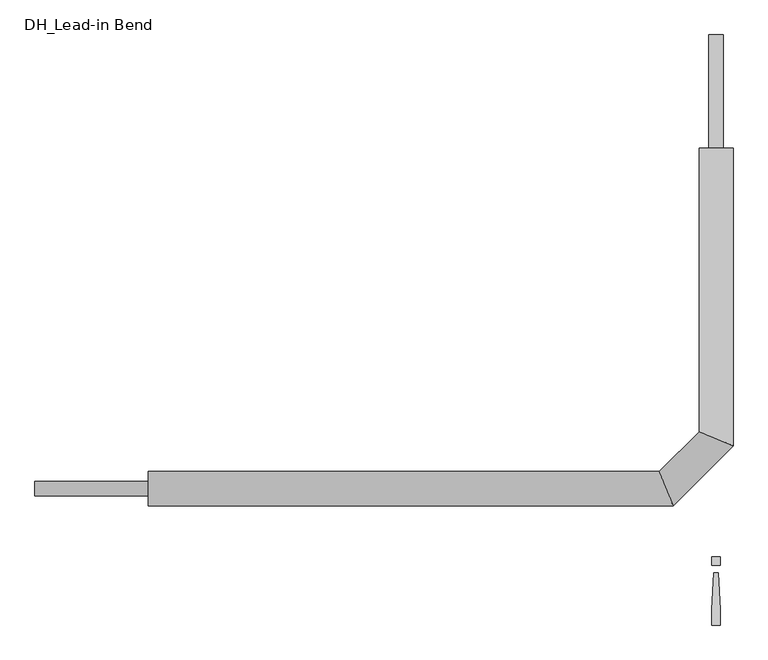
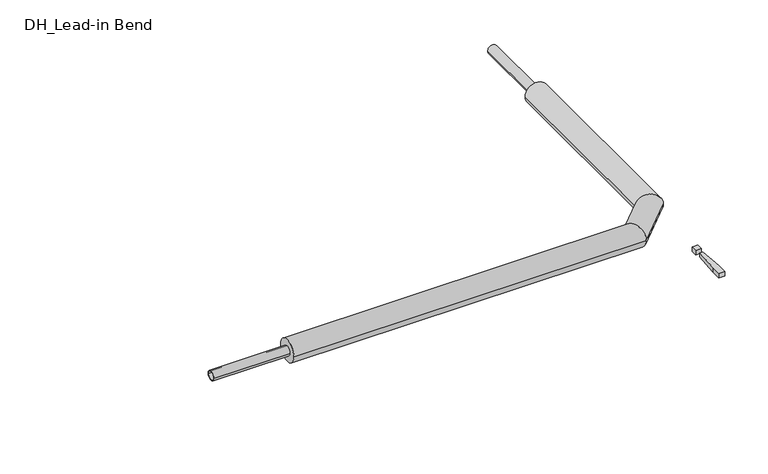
"""IFC4 building model written with IfcOpenShell, lengths in millimetres: pipe fitting geometry, DH_Lead-in Bend : INSULPEX UNO 11 Heating."""

from ifc_helpers import new_model, si_unit, point, frame, origin, origin_with_axes, origin_2d, place, context, project, spatial, polyline, circle_curve, ellipse_curve, trimmed, segment, composite_curve, outline, extrude, source, transform, mapped, element, save
from ifc_brep_helpers import plane_surface, cylinder_surface, advanced_brep


def dh_lead_in_bend_09b6b6ad(model_context):
    return source(origin(), model_context, "Body", "SolidModel", [
        advanced_brep(
        [(-1250.0, -37.5, 0.0), (-1250.0, 37.5, 0.0), (-94.4669914, -37.5, 0.0), (-125.5330086, 37.5, 0.0), (37.5, 750.0, 0.0), (-37.5, 750.0, 0.0), (-37.5, 125.5330086, 0.0), (37.5, 94.4669914, 0.0)],
        [
            (0, 1, circle_curve(frame((-1250.0, 0.0, 0.0), z_axis=(-1.0, 0.0, 0.0), x_axis=(0.0, 1.0, 0.0)), 37.5)),
            (1, 0, circle_curve(frame((-1250.0, 0.0, 0.0), z_axis=(-1.0, 0.0, 0.0), x_axis=(0.0, 1.0, 0.0)), 37.5)),
            (0, 2),
            (2, 3, ellipse_curve(frame((-110.0, 0.0, 0.0), z_axis=(-0.9238795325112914, -0.3826834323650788, 0.0), x_axis=(-0.38268343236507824, 0.9238795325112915, 0.0)), 40.5897075, 37.5)),
            (3, 1),
            (3, 2, ellipse_curve(frame((-110.0, 0.0, 0.0), z_axis=(-0.9238795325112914, -0.3826834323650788, 0.0), x_axis=(-0.38268343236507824, 0.9238795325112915, 0.0)), 40.5897075, 37.5)),
            (4, 5, circle_curve(frame((0.0, 750.0, 0.0), z_axis=(0.0, 1.0, 0.0), x_axis=(-1.0, 0.0, 0.0)), 37.5)),
            (5, 4, circle_curve(frame((0.0, 750.0, 0.0), z_axis=(0.0, 1.0, 0.0), x_axis=(-1.0, 0.0, 0.0)), 37.5)),
            (6, 7, ellipse_curve(frame((0.0, 110.0, 0.0), z_axis=(0.38268343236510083, 0.9238795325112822, 0.0), x_axis=(0.9238795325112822, -0.3826834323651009, 0.0)), 40.5897075, 37.5)),
            (7, 4),
            (5, 6),
            (7, 6, ellipse_curve(frame((0.0, 110.0, 0.0), z_axis=(0.38268343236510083, 0.9238795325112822, 0.0), x_axis=(0.9238795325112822, -0.3826834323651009, 0.0)), 40.5897075, 37.5)),
            (2, 7),
            (6, 3),
        ],
        [
            plane_surface(frame((-1250.0, 0.0, 0.0), z_axis=(-1.0, 0.0, 0.0), x_axis=(0.0, 0.0, 1.0))),
            cylinder_surface(frame((-1250.0, 0.0, 0.0), z_axis=(-1.0, 0.0, 0.0), x_axis=(0.0, 1.0, 0.0)), 37.5),
            plane_surface(frame((0.0, 750.0, 0.0), z_axis=(0.0, 1.0, 0.0), x_axis=(0.0, 0.0, 1.0))),
            cylinder_surface(frame((0.0, 110.0, 0.0), z_axis=(0.0, -1.0, 0.0), x_axis=(-1.0, 0.0, 0.0)), 37.5),
            cylinder_surface(frame((-110.0, 0.0, 0.0), z_axis=(-0.7071067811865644, -0.7071067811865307, 0.0), x_axis=(-0.7071067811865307, 0.7071067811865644, 0.0)), 37.5),
        ],
        [
            (0, [[1, 2]]),
            (1, [[-1, 3, 4, 5]]),
            (1, [[-2, -5, 6, -3]]),
            (2, [[7, 8]]),
            (3, [[9, 10, -8, 11]]),
            (3, [[12, -11, -7, -10]]),
            (4, [[-4, 13, -9, 14]]),
            (4, [[-6, -14, -12, -13]]),
        ],
    ),
        extrude(outline(polyline([(4.7088895, -185.3166715), (9.4177791, -266.6553807), (9.4177791, -300.6844652), (-9.4177791, -300.6844652), (-9.4177791, -266.6553807), (-4.7088895, -185.3166715), (4.7088895, -185.3166715)])), origin_with_axes(), (0.0, 0.0, 1.0), 15.0),
        extrude(outline(polyline([(9.4177791, -150.0), (9.4177791, -168.8355582), (-9.4177791, -168.8355582), (-9.4177791, -150.0), (9.4177791, -150.0)])), origin_with_axes(), (0.0, 0.0, 1.0), 15.0),
        extrude(outline(composite_curve([segment(trimmed(circle_curve(origin_2d(), 16.0), [point((-16.0, 0.0))], [point((16.0, 0.0))], False, "CARTESIAN"), True, "CONTINUOUS"), segment(trimmed(circle_curve(origin_2d(), 16.0), [point((16.0, 0.0))], [point((-16.0, 0.0))], False, "CARTESIAN"), True, "CONTINUOUS")], self_intersect=False), holes=[composite_curve([segment(trimmed(circle_curve(origin_2d(), 13.1), [point((-13.1, 0.0))], [point((13.1, 0.0))], True, "CARTESIAN"), True, "CONTINUOUS"), segment(trimmed(circle_curve(origin_2d(), 13.1), [point((13.1, 0.0))], [point((-13.1, 0.0))], True, "CARTESIAN"), True, "CONTINUOUS")], self_intersect=False)]), frame((-1500.0, 0.0, 0.0), z_axis=(1.0, 0.0, 0.0), x_axis=(0.0, 1.0, 0.0)), (0.0, 0.0, 1.0), 250.0),
        extrude(outline(composite_curve([segment(trimmed(circle_curve(origin_2d(), 16.0), [point((0.0, 16.0))], [point((0.0, -16.0))], False, "CARTESIAN"), True, "CONTINUOUS"), segment(trimmed(circle_curve(origin_2d(), 16.0), [point((0.0, -16.0))], [point((0.0, 16.0))], False, "CARTESIAN"), True, "CONTINUOUS")], self_intersect=False), holes=[composite_curve([segment(trimmed(circle_curve(origin_2d(), 13.1), [point((0.0, 13.1))], [point((0.0, -13.1))], True, "CARTESIAN"), True, "CONTINUOUS"), segment(trimmed(circle_curve(origin_2d(), 13.1), [point((0.0, -13.1))], [point((0.0, 13.1))], True, "CARTESIAN"), True, "CONTINUOUS")], self_intersect=False)]), frame((0.0, 750.0, 0.0), z_axis=(0.0, 1.0, 0.0), x_axis=(0.0, 0.0, 1.0)), (0.0, 0.0, 1.0), 250.0),
    ])


if __name__ == "__main__":
    model = new_model("IFC4")
    model_context = context("Model", 3, world=origin())
    ifc_project = project(units=[si_unit("LENGTHUNIT", "METRE", prefix="MILLI")], contexts=[model_context])
    site = spatial("IfcSite", under=ifc_project)
    building = spatial("IfcBuilding", under=site)
    placement = place(None, origin())
    dh_lead_in_bend_shape = dh_lead_in_bend_09b6b6ad(model_context)
    element("IfcPipeFitting", 1, ObjectType="DH_Lead-in Bend : INSULPEX UNO 11 Heating", at=placement, inside=building, context=model_context, shape_type="MappedRepresentation", body=[
        mapped(dh_lead_in_bend_shape, transform((0.0, 0.0, 0.0), x_axis=(1.0, 0.0, 0.0), y_axis=(0.0, 1.0, 0.0), z_axis=(0.0, 0.0, 1.0))),
    ])
    save(model, "model.ifc")
